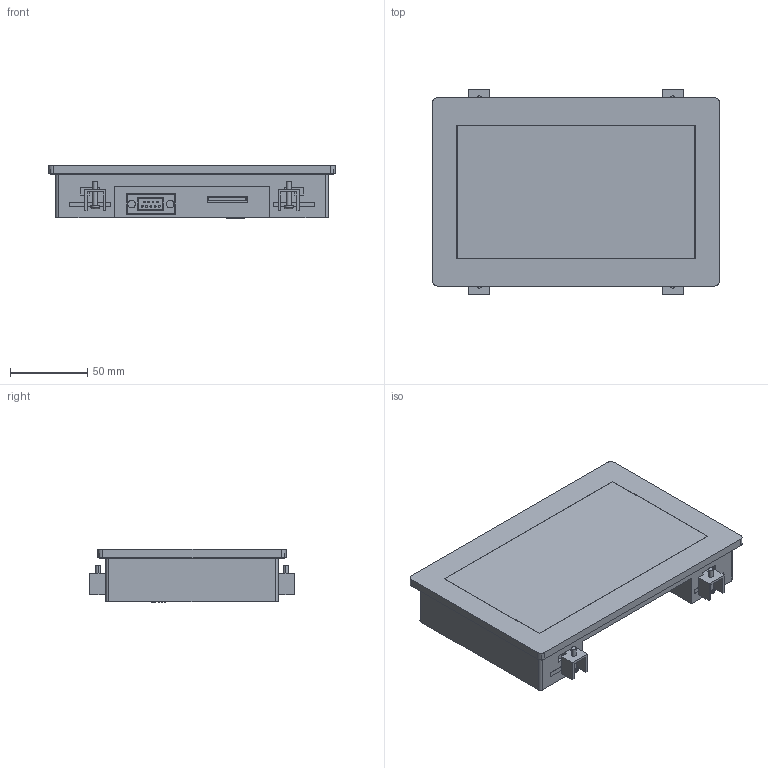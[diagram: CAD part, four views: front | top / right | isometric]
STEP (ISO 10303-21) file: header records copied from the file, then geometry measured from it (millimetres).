
FILE_DESCRIPTION (( 'STEP AP203' ), '1' );
FILE_NAME ('aig707wcl1b2.STEP', '2015-01-09T01:30:49', ( '' ), ( '' ), 'SwSTEP 2.0', 'SolidWorks 2010', '' );
FILE_SCHEMA (( 'CONFIG_CONTROL_DESIGN' ));
Length unit declared in the file: millimetre
Products named in the file (6): aig707wcl1b2_waterproofpacking; aig707wcl1b2_case; aig707wcl1b2; aig707wcl1b2_cover; aig707wcl1b2_M3screw; aig707wcl1b2_fitting
Assembly tree (11 placements, depth 2):
  aig707wcl1b2
    aig707wcl1b2_fitting  x4
    aig707wcl1b2_M3screw  x4
    aig707wcl1b2_waterproofpacking
    aig707wcl1b2_cover
    aig707wcl1b2_case
Bounding box: 186 x 132.6 x 34.5 mm (x, y, z)
Volume: 600489 mm3; surface area: 97239.7 mm2
Topology: 11 solids, 11 shells, 841 faces, 2129 edges, 1412 vertices
Faces by surface type: plane 767, cylinder 66, torus 8
Entity records: 22159 total; most frequent: CARTESIAN_POINT 3778, ORIENTED_EDGE 3658, DIRECTION 3411, EDGE_CURVE 1829, LINE 1717, VECTOR 1717, VERTEX_POINT 1214, AXIS2_PLACEMENT_3D 847
